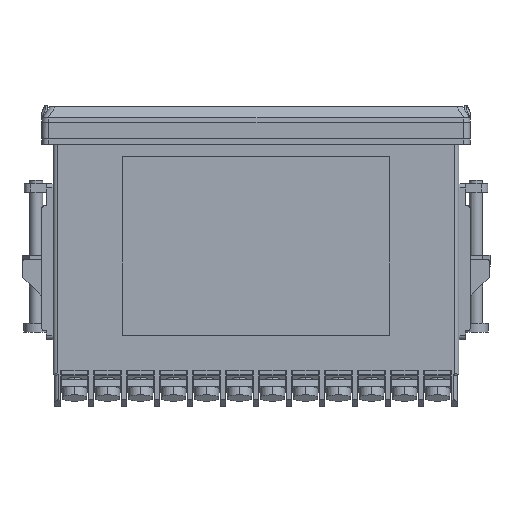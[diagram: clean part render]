
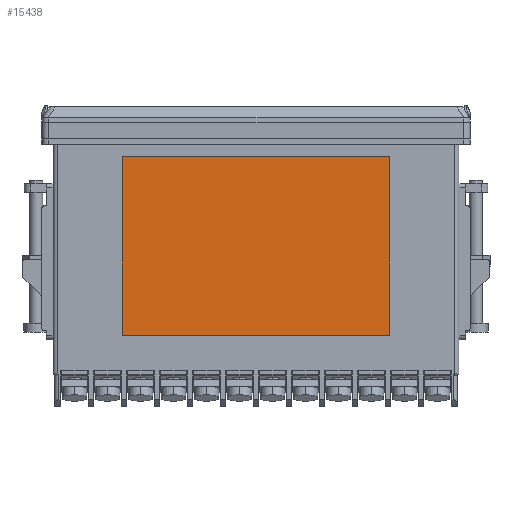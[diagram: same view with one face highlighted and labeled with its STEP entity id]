
A CAD part, left-side view. The second image highlights one B-rep face of the part: STEP entity #15438.
In plain terms, the highlighted planar face has unit normal (-1, 0, 0).
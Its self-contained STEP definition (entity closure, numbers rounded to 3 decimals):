
#407 = VERTEX_POINT ( 'NONE', #30495 ) ;
#3958 = VERTEX_POINT ( 'NONE', #53889 ) ;
#5679 = EDGE_LOOP ( 'NONE', ( #39553, #7532, #14373, #60017 ) ) ;
#7532 = ORIENTED_EDGE ( 'NONE', *, *, #43561, .T. ) ;
#8486 = VECTOR ( 'NONE', #9169, 1000. ) ;
#9169 = DIRECTION ( 'NONE',  ( 0., 0., -1. ) ) ;
#12412 = CARTESIAN_POINT ( 'NONE',  ( -45.25, -30., -4. ) ) ;
#13980 = CARTESIAN_POINT ( 'NONE',  ( -45.25, 30., -4. ) ) ;
#14373 = ORIENTED_EDGE ( 'NONE', *, *, #28329, .T. ) ;
#15064 = FACE_OUTER_BOUND ( 'NONE', #5679, .T. ) ;
#15438 = ADVANCED_FACE ( 'NONE', ( #15064 ), #50090, .F. ) ;
#18045 = VECTOR ( 'NONE', #39309, 1000. ) ;
#18129 = LINE ( 'NONE', #12412, #57628 ) ;
#21624 = VERTEX_POINT ( 'NONE', #13980 ) ;
#22129 = LINE ( 'NONE', #45163, #8486 ) ;
#22934 = CARTESIAN_POINT ( 'NONE',  ( -45.25, -30., -44. ) ) ;
#23166 = DIRECTION ( 'NONE',  ( 0., -1., 0. ) ) ;
#24496 = EDGE_CURVE ( 'NONE', #55113, #3958, #45440, .T. ) ;
#28329 = EDGE_CURVE ( 'NONE', #407, #55113, #56262, .T. ) ;
#28824 = VECTOR ( 'NONE', #23166, 1000. ) ;
#29563 = DIRECTION ( 'NONE',  ( 1., 0., 0. ) ) ;
#30495 = CARTESIAN_POINT ( 'NONE',  ( -45.25, 30., -44. ) ) ;
#34305 = CARTESIAN_POINT ( 'NONE',  ( -45.25, 0., 0. ) ) ;
#39309 = DIRECTION ( 'NONE',  ( 0., 0., 1. ) ) ;
#39553 = ORIENTED_EDGE ( 'NONE', *, *, #42740, .T. ) ;
#42740 = EDGE_CURVE ( 'NONE', #3958, #21624, #18129, .T. ) ;
#43270 = DIRECTION ( 'NONE',  ( 0., 1., 0. ) ) ;
#43561 = EDGE_CURVE ( 'NONE', #21624, #407, #22129, .T. ) ;
#45163 = CARTESIAN_POINT ( 'NONE',  ( -45.25, 30., -44. ) ) ;
#45440 = LINE ( 'NONE', #65006, #18045 ) ;
#50090 = PLANE ( 'NONE',  #57932 ) ;
#53889 = CARTESIAN_POINT ( 'NONE',  ( -45.25, -30., -4. ) ) ;
#55113 = VERTEX_POINT ( 'NONE', #60382 ) ;
#56262 = LINE ( 'NONE', #22934, #28824 ) ;
#57628 = VECTOR ( 'NONE', #43270, 1000. ) ;
#57932 = AXIS2_PLACEMENT_3D ( 'NONE', #34305, #29563, #65613 ) ;
#60017 = ORIENTED_EDGE ( 'NONE', *, *, #24496, .T. ) ;
#60382 = CARTESIAN_POINT ( 'NONE',  ( -45.25, -30., -44. ) ) ;
#65006 = CARTESIAN_POINT ( 'NONE',  ( -45.25, -30., -44. ) ) ;
#65613 = DIRECTION ( 'NONE',  ( 0., 0., -1. ) ) ;
